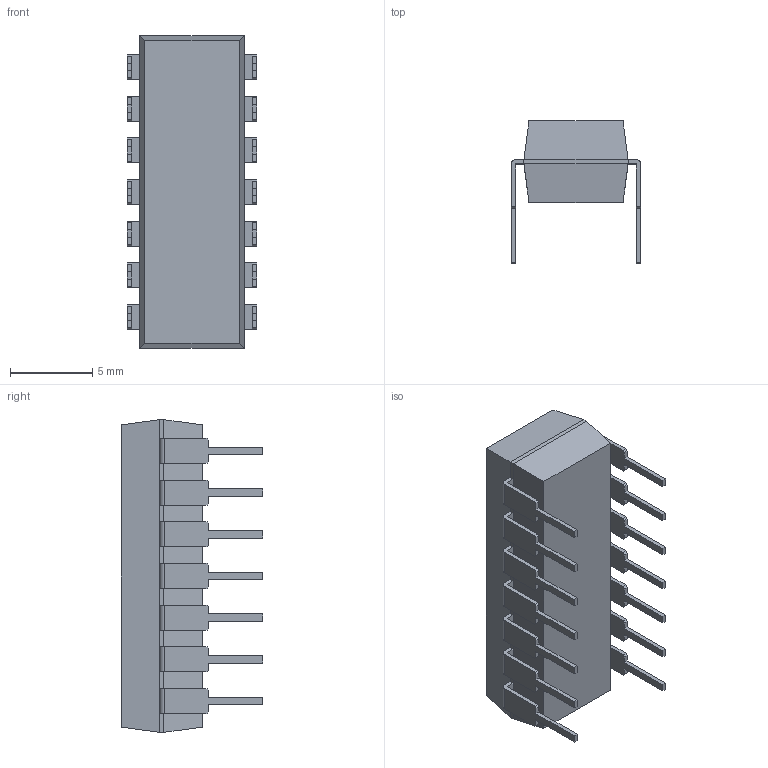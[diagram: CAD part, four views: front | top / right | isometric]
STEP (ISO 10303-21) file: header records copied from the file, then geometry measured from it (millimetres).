
FILE_DESCRIPTION (( 'STEP AP214' ), '1' );
FILE_NAME ('PIC16F18426EP.STEP', '2023-12-29T19:11:57', ( '' ), ( '' ), 'SwSTEP 2.0', 'SolidWorks 2021', '' );
FILE_SCHEMA (( 'AUTOMOTIVE_DESIGN' ));
Length unit declared in the file: inch
Products named in the file (1): PIC16F18426EP
Bounding box: 7.87 x 8.64 x 19.05 mm (x, y, z)
Volume: 586.4 mm3; surface area: 708.6 mm2
Topology: 16 solids, 16 shells, 250 faces, 641 edges, 424 vertices
Faces by surface type: plane 216, cylinder 34
Entity records: 7678 total; most frequent: CARTESIAN_POINT 1316, ORIENTED_EDGE 1282, DIRECTION 1211, EDGE_CURVE 641, LINE 573, VECTOR 573, VERTEX_POINT 424, AXIS2_PLACEMENT_3D 319
